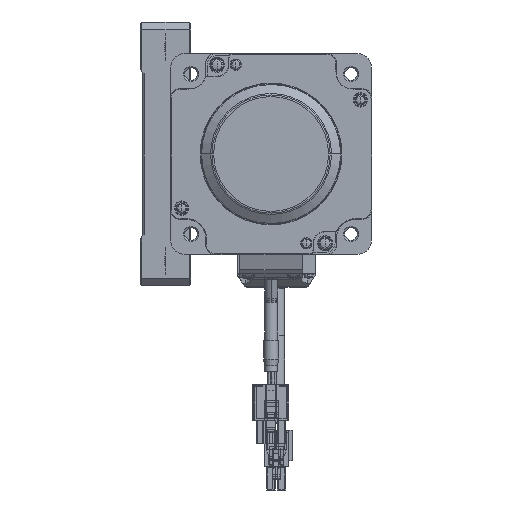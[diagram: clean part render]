
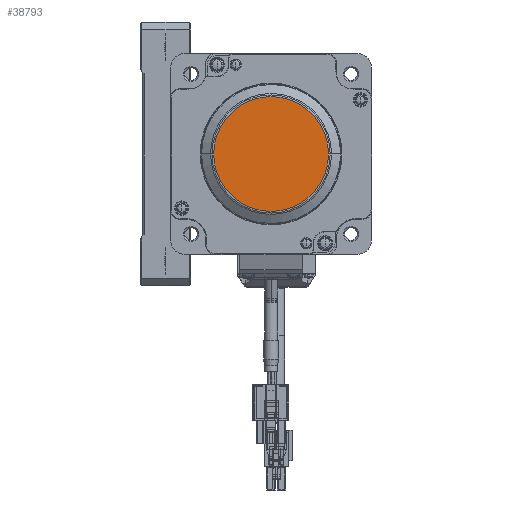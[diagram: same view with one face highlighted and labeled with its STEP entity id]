
A CAD part, front view. The second image highlights one B-rep face of the part: STEP entity #38793.
In plain terms, the highlighted planar face has unit normal (0, -1, 0) as drawn and (-1, 0, 0) by its records, which use the part's own axes.
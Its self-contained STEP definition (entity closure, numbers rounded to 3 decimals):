
#31774=CARTESIAN_POINT('',(-91.9,0.,0.));
#31775=DIRECTION('',(-1.,0.,0.));
#31776=DIRECTION('',(0.,0.,-1.));
#31777=AXIS2_PLACEMENT_3D('',#31774,#31775,#31776);
#31779=CARTESIAN_POINT('',(-91.9,0.,0.));
#31780=DIRECTION('',(-1.,0.,0.));
#31781=DIRECTION('',(0.,0.,1.));
#31782=AXIS2_PLACEMENT_3D('',#31779,#31780,#31781);
#33606=CARTESIAN_POINT('',(-91.9,0.,-22.84));
#33608=VERTEX_POINT('',#33606);
#33612=CARTESIAN_POINT('',(-91.9,0.,22.84));
#33613=VERTEX_POINT('',#33612);
#38783=CARTESIAN_POINT('',(-91.9,-22.,36.));
#38784=DIRECTION('',(1.,0.,0.));
#38785=DIRECTION('',(0.,0.,-1.));
#38786=AXIS2_PLACEMENT_3D('',#38783,#38784,#38785);
#38787=PLANE('',#38786);
#38788=ORIENTED_EDGE('',*,*,#38773,.F.);
#38790=ORIENTED_EDGE('',*,*,#38789,.F.);
#38791=EDGE_LOOP('',(#38788,#38790));
#38792=FACE_OUTER_BOUND('',#38791,.F.);
#38793=ADVANCED_FACE('',(#38792),#38787,.F.);
#31778=CIRCLE('',#31777,22.84);
#31783=CIRCLE('',#31782,22.84);
#38773=EDGE_CURVE('',#33608,#33613,#31778,.T.);
#38789=EDGE_CURVE('',#33613,#33608,#31783,.T.);
